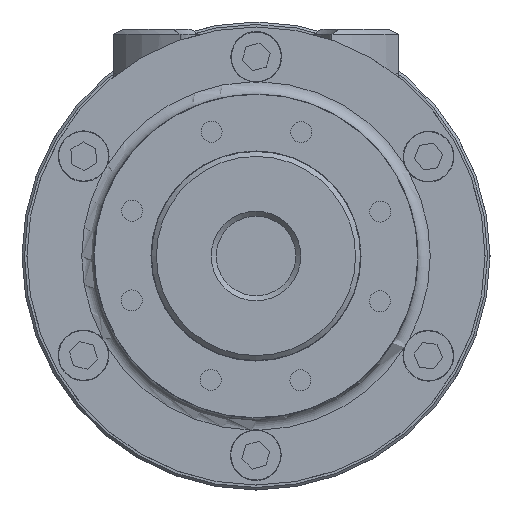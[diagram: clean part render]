
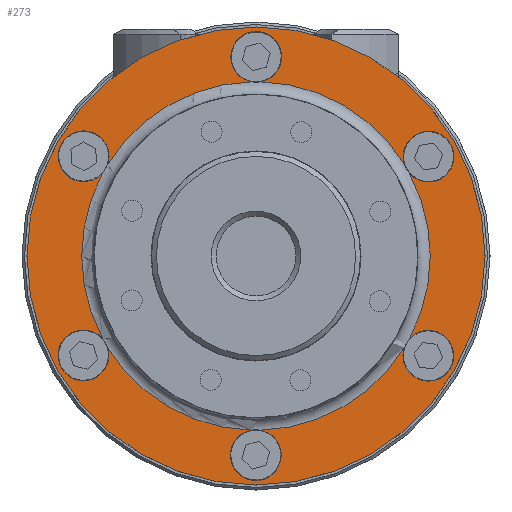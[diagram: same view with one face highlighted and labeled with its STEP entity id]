
A CAD part, left-side view. The second image highlights one B-rep face of the part: STEP entity #273.
In plain terms, the highlighted planar face has unit normal (-1, 0, 0).
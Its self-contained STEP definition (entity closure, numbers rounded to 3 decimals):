
#273 = ADVANCED_FACE( '', ( #526, #527 ), #528, .F. );
#526 = FACE_OUTER_BOUND( '', #897, .T. );
#527 = FACE_BOUND( '', #898, .T. );
#528 = PLANE( '', #899 );
#897 = EDGE_LOOP( '', ( #1672 ) );
#898 = EDGE_LOOP( '', ( #1673, #1674, #1675, #1676, #1677, #1678, #1679, #1680, #1681, #1682, #1683, #1684 ) );
#899 = AXIS2_PLACEMENT_3D( '', #1685, #1686, #1687 );
#1672 = ORIENTED_EDGE( '', *, *, #3232, .T. );
#1673 = ORIENTED_EDGE( '', *, *, #3209, .T. );
#1674 = ORIENTED_EDGE( '', *, *, #3233, .T. );
#1675 = ORIENTED_EDGE( '', *, *, #3218, .T. );
#1676 = ORIENTED_EDGE( '', *, *, #3234, .T. );
#1677 = ORIENTED_EDGE( '', *, *, #3217, .T. );
#1678 = ORIENTED_EDGE( '', *, *, #3187, .T. );
#1679 = ORIENTED_EDGE( '', *, *, #3215, .T. );
#1680 = ORIENTED_EDGE( '', *, *, #3235, .T. );
#1681 = ORIENTED_EDGE( '', *, *, #3213, .T. );
#1682 = ORIENTED_EDGE( '', *, *, #3236, .T. );
#1683 = ORIENTED_EDGE( '', *, *, #3211, .T. );
#1684 = ORIENTED_EDGE( '', *, *, #3237, .T. );
#1685 = CARTESIAN_POINT( '', ( -22., 46., 0. ) );
#1686 = DIRECTION( '', ( 1., 0., 0. ) );
#1687 = DIRECTION( '', ( 0., 1., 0. ) );
#3187 = EDGE_CURVE( '', #4435, #4434, #4437, .T. );
#3209 = EDGE_CURVE( '', #4474, #4475, #4476, .T. );
#3211 = EDGE_CURVE( '', #4479, #4477, #4480, .T. );
#3213 = EDGE_CURVE( '', #4483, #4481, #4484, .T. );
#3215 = EDGE_CURVE( '', #4434, #4485, #4487, .T. );
#3217 = EDGE_CURVE( '', #4459, #4435, #4489, .T. );
#3218 = EDGE_CURVE( '', #4490, #4460, #4491, .T. );
#3232 = EDGE_CURVE( '', #4513, #4513, #4514, .F. );
#3233 = EDGE_CURVE( '', #4475, #4490, #4515, .T. );
#3234 = EDGE_CURVE( '', #4460, #4459, #4516, .T. );
#3235 = EDGE_CURVE( '', #4485, #4483, #4517, .T. );
#3236 = EDGE_CURVE( '', #4481, #4479, #4518, .T. );
#3237 = EDGE_CURVE( '', #4477, #4474, #4519, .T. );
#4434 = VERTEX_POINT( '', #7253 );
#4435 = VERTEX_POINT( '', #7254 );
#4437 = CIRCLE( '', #7256, 5.1 );
#4459 = VERTEX_POINT( '', #7282 );
#4460 = VERTEX_POINT( '', #7283 );
#4474 = VERTEX_POINT( '', #7303 );
#4475 = VERTEX_POINT( '', #7304 );
#4476 = CIRCLE( '', #7305, 35. );
#4477 = VERTEX_POINT( '', #7306 );
#4479 = VERTEX_POINT( '', #7308 );
#4480 = CIRCLE( '', #7309, 35. );
#4481 = VERTEX_POINT( '', #7310 );
#4483 = VERTEX_POINT( '', #7312 );
#4484 = CIRCLE( '', #7313, 35. );
#4485 = VERTEX_POINT( '', #7314 );
#4487 = CIRCLE( '', #7316, 35. );
#4489 = CIRCLE( '', #7318, 35. );
#4490 = VERTEX_POINT( '', #7319 );
#4491 = CIRCLE( '', #7320, 35. );
#4513 = VERTEX_POINT( '', #7348 );
#4514 = CIRCLE( '', #7349, 46. );
#4515 = CIRCLE( '', #7350, 5.1 );
#4516 = CIRCLE( '', #7351, 5.1 );
#4517 = CIRCLE( '', #7352, 5.1 );
#4518 = CIRCLE( '', #7353, 5.1 );
#4519 = CIRCLE( '', #7354, 5.1 );
#7253 = CARTESIAN_POINT( '', ( -22., -30.77, 16.68 ) );
#7254 = CARTESIAN_POINT( '', ( -22., -29.83, 18.308 ) );
#7256 = AXIS2_PLACEMENT_3D( '', #8301, #8302, #8303 );
#7282 = CARTESIAN_POINT( '', ( -22., -0.94, 34.987 ) );
#7283 = CARTESIAN_POINT( '', ( -22., 0.94, 34.987 ) );
#7303 = CARTESIAN_POINT( '', ( -22., 30.77, -16.68 ) );
#7304 = CARTESIAN_POINT( '', ( -22., 30.77, 16.68 ) );
#7305 = AXIS2_PLACEMENT_3D( '', #8338, #8339, #8340 );
#7306 = CARTESIAN_POINT( '', ( -22., 29.83, -18.308 ) );
#7308 = CARTESIAN_POINT( '', ( -22., 0.94, -34.987 ) );
#7309 = AXIS2_PLACEMENT_3D( '', #8344, #8345, #8346 );
#7310 = CARTESIAN_POINT( '', ( -22., -0.94, -34.987 ) );
#7312 = CARTESIAN_POINT( '', ( -22., -29.83, -18.308 ) );
#7313 = AXIS2_PLACEMENT_3D( '', #8350, #8351, #8352 );
#7314 = CARTESIAN_POINT( '', ( -22., -30.77, -16.68 ) );
#7316 = AXIS2_PLACEMENT_3D( '', #8356, #8357, #8358 );
#7318 = AXIS2_PLACEMENT_3D( '', #8362, #8363, #8364 );
#7319 = CARTESIAN_POINT( '', ( -22., 29.83, 18.308 ) );
#7320 = AXIS2_PLACEMENT_3D( '', #8365, #8366, #8367 );
#7348 = CARTESIAN_POINT( '', ( -22., 0., -46. ) );
#7349 = AXIS2_PLACEMENT_3D( '', #8389, #8390, #8391 );
#7350 = AXIS2_PLACEMENT_3D( '', #8392, #8393, #8394 );
#7351 = AXIS2_PLACEMENT_3D( '', #8395, #8396, #8397 );
#7352 = AXIS2_PLACEMENT_3D( '', #8398, #8399, #8400 );
#7353 = AXIS2_PLACEMENT_3D( '', #8401, #8402, #8403 );
#7354 = AXIS2_PLACEMENT_3D( '', #8404, #8405, #8406 );
#8301 = CARTESIAN_POINT( '', ( -22., -34.641, 20. ) );
#8302 = DIRECTION( '', ( 1., 0., 0. ) );
#8303 = DIRECTION( '', ( 0., 0., -1. ) );
#8338 = CARTESIAN_POINT( '', ( -22., 0., 0. ) );
#8339 = DIRECTION( '', ( 1., 0., 0. ) );
#8340 = DIRECTION( '', ( 0., 0., -1. ) );
#8344 = CARTESIAN_POINT( '', ( -22., 0., 0. ) );
#8345 = DIRECTION( '', ( 1., 0., 0. ) );
#8346 = DIRECTION( '', ( 0., 0., -1. ) );
#8350 = CARTESIAN_POINT( '', ( -22., 0., 0. ) );
#8351 = DIRECTION( '', ( 1., 0., 0. ) );
#8352 = DIRECTION( '', ( 0., 0., -1. ) );
#8356 = CARTESIAN_POINT( '', ( -22., 0., 0. ) );
#8357 = DIRECTION( '', ( 1., 0., 0. ) );
#8358 = DIRECTION( '', ( 0., 0., -1. ) );
#8362 = CARTESIAN_POINT( '', ( -22., 0., 0. ) );
#8363 = DIRECTION( '', ( 1., 0., 0. ) );
#8364 = DIRECTION( '', ( 0., 0., -1. ) );
#8365 = CARTESIAN_POINT( '', ( -22., 0., 0. ) );
#8366 = DIRECTION( '', ( 1., 0., 0. ) );
#8367 = DIRECTION( '', ( 0., 0., -1. ) );
#8389 = CARTESIAN_POINT( '', ( -22., 0., 0. ) );
#8390 = DIRECTION( '', ( 1., 0., 0. ) );
#8391 = DIRECTION( '', ( 0., 0., -1. ) );
#8392 = CARTESIAN_POINT( '', ( -22., 34.641, 20. ) );
#8393 = DIRECTION( '', ( 1., 0., 0. ) );
#8394 = DIRECTION( '', ( 0., 0., -1. ) );
#8395 = CARTESIAN_POINT( '', ( -22., 0., 40. ) );
#8396 = DIRECTION( '', ( 1., 0., 0. ) );
#8397 = DIRECTION( '', ( 0., 0., -1. ) );
#8398 = CARTESIAN_POINT( '', ( -22., -34.641, -20. ) );
#8399 = DIRECTION( '', ( 1., 0., 0. ) );
#8400 = DIRECTION( '', ( 0., 0., -1. ) );
#8401 = CARTESIAN_POINT( '', ( -22., 0., -40. ) );
#8402 = DIRECTION( '', ( 1., 0., 0. ) );
#8403 = DIRECTION( '', ( 0., 0., -1. ) );
#8404 = CARTESIAN_POINT( '', ( -22., 34.641, -20. ) );
#8405 = DIRECTION( '', ( 1., 0., 0. ) );
#8406 = DIRECTION( '', ( 0., 0., -1. ) );
